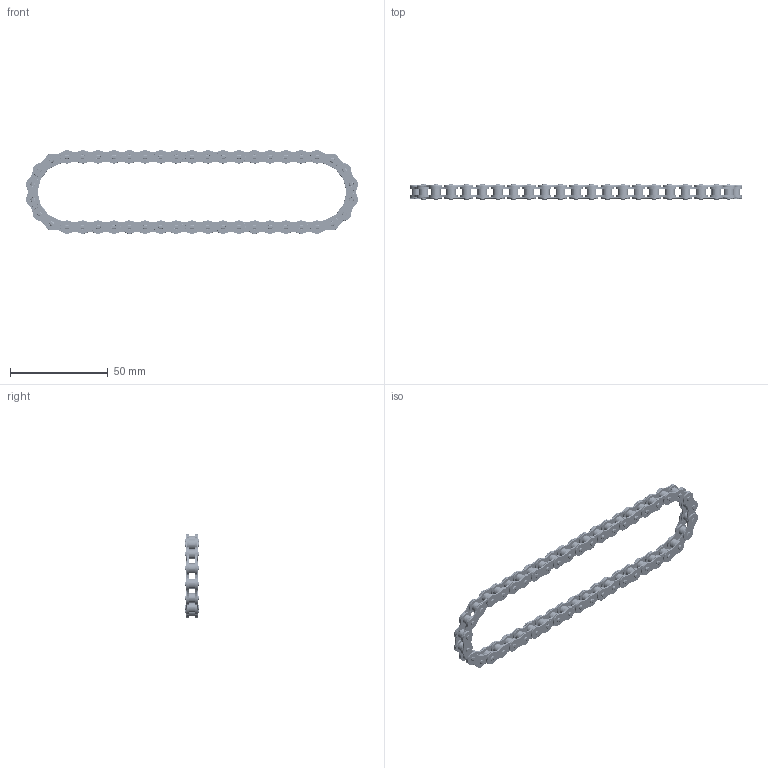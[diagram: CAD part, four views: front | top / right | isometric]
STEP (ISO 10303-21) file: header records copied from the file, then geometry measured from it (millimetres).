
FILE_DESCRIPTION(/* description */ (''),/* implementation_level */ '2;1');
FILE_NAME(/* name */ '3315-0008-0046 Loop.step',/* time_stamp */ '2024-06-26T13:47:36-05:00',/* author */ (''),/* organization */ (''),/* preprocessor_version */ 'ST-DEVELOPER v20',/* originating_system */ 'Autodesk Translation Framework v13.14.0.145',/* authorisation */ '');
FILE_SCHEMA (('AUTOMOTIVE_DESIGN { 1 0 10303 214 3 1 1 }'));
Length unit declared in the file: millimetre
Products named in the file (7): 3315-0008-0046 Loop; Arc_A; Arc_B; Length_A; Length_B; IN; OUT
Assembly tree (50 placements, depth 3):
  3315-0008-0046 Loop
    Arc_A
      OUT  x3
      IN  x4
    Arc_B
      OUT  x4
      IN  x3
    Length_A
      OUT  x8
      IN  x8
    Length_B
      OUT  x8
      IN  x8
Bounding box: 169.93 x 7.65 x 42.83 mm (x, y, z)
Volume: 8563.8 mm3; surface area: 28158.2 mm2
Topology: 230 solids, 230 shells, 3933 faces, 8855 edges, 5083 vertices
Faces by surface type: bspline 1311, torus 1012, cylinder 966, plane 644
Full cylindrical faces by diameter (mm): 2.35 x138, 2.36 x46, 2.98 x46, 3 x138, 4.92 x46
Entity records: 7059 total; most frequent: CARTESIAN_POINT 3253, DIRECTION 800, ORIENTED_EDGE 692, AXIS2_PLACEMENT_3D 375, EDGE_CURVE 346, VERTEX_POINT 208, CIRCLE 204, EDGE_LOOP 182
